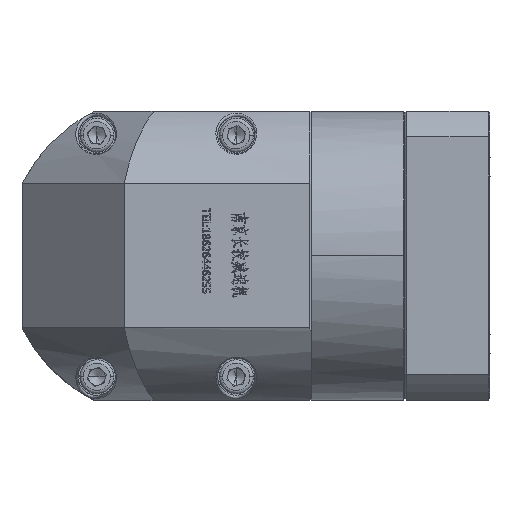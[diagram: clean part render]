
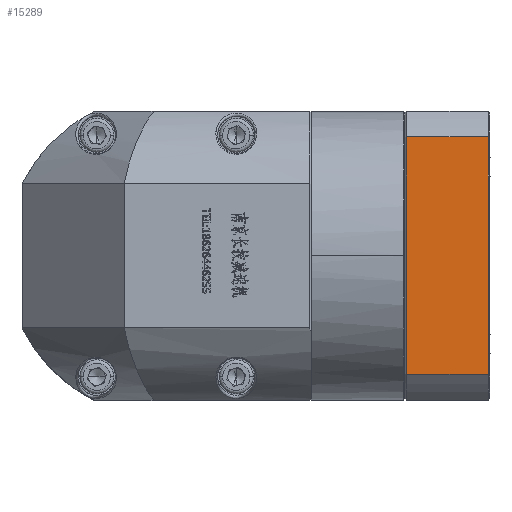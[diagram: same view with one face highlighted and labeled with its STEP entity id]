
A CAD part, top view. The second image highlights one B-rep face of the part: STEP entity #15289.
In plain terms, the highlighted planar face has unit normal (0, 0, 1).
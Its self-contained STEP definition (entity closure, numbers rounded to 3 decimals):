
#5148 = LINE ( 'NONE', #181588, #116836 ) ;
#10032 = CARTESIAN_POINT ( 'NONE',  ( 126.058, 109.999, 59.646 ) ) ;
#11888 = DIRECTION ( 'NONE',  ( 0., -1., 0. ) ) ;
#15289 = ADVANCED_FACE ( 'NONE', ( #75928 ), #38700, .F. ) ;
#22791 = VERTEX_POINT ( 'NONE', #51730 ) ;
#24693 = DIRECTION ( 'NONE',  ( -1., 0., 0. ) ) ;
#25518 = VECTOR ( 'NONE', #44657, 1000. ) ;
#30048 = CARTESIAN_POINT ( 'NONE',  ( 126.058, 109.999, 59.646 ) ) ;
#31092 = ORIENTED_EDGE ( 'NONE', *, *, #47672, .F. ) ;
#35006 = LINE ( 'NONE', #128396, #151207 ) ;
#38700 = PLANE ( 'NONE',  #75537 ) ;
#44657 = DIRECTION ( 'NONE',  ( -1., 0., 0. ) ) ;
#47672 = EDGE_CURVE ( 'NONE', #107727, #176719, #5148, .T. ) ;
#48309 = CARTESIAN_POINT ( 'NONE',  ( 125.558, 109.999, 59.646 ) ) ;
#49451 = ORIENTED_EDGE ( 'NONE', *, *, #131490, .F. ) ;
#51730 = CARTESIAN_POINT ( 'NONE',  ( 101.558, 109.999, 59.646 ) ) ;
#56720 = CARTESIAN_POINT ( 'NONE',  ( 101.558, 179.82, 59.646 ) ) ;
#61004 = LINE ( 'NONE', #117709, #133926 ) ;
#75537 = AXIS2_PLACEMENT_3D ( 'NONE', #10032, #111873, #24693 ) ;
#75928 = FACE_OUTER_BOUND ( 'NONE', #158247, .T. ) ;
#81068 = ORIENTED_EDGE ( 'NONE', *, *, #142246, .T. ) ;
#94406 = DIRECTION ( 'NONE',  ( 0., -1., 0. ) ) ;
#107727 = VERTEX_POINT ( 'NONE', #139495 ) ;
#107888 = VERTEX_POINT ( 'NONE', #56720 ) ;
#111873 = DIRECTION ( 'NONE',  ( 0., 0., -1. ) ) ;
#116836 = VECTOR ( 'NONE', #94406, 1000. ) ;
#117709 = CARTESIAN_POINT ( 'NONE',  ( 126.058, 179.82, 59.646 ) ) ;
#120928 = EDGE_CURVE ( 'NONE', #176719, #22791, #141725, .T. ) ;
#128396 = CARTESIAN_POINT ( 'NONE',  ( 101.558, 109.999, 59.646 ) ) ;
#131490 = EDGE_CURVE ( 'NONE', #107888, #107727, #61004, .T. ) ;
#132345 = DIRECTION ( 'NONE',  ( 1., 0., 0. ) ) ;
#133926 = VECTOR ( 'NONE', #132345, 1000. ) ;
#139495 = CARTESIAN_POINT ( 'NONE',  ( 125.558, 179.82, 59.646 ) ) ;
#141725 = LINE ( 'NONE', #30048, #25518 ) ;
#142246 = EDGE_CURVE ( 'NONE', #107888, #22791, #35006, .T. ) ;
#151207 = VECTOR ( 'NONE', #11888, 1000. ) ;
#158247 = EDGE_LOOP ( 'NONE', ( #31092, #49451, #81068, #163411 ) ) ;
#163411 = ORIENTED_EDGE ( 'NONE', *, *, #120928, .F. ) ;
#176719 = VERTEX_POINT ( 'NONE', #48309 ) ;
#181588 = CARTESIAN_POINT ( 'NONE',  ( 125.558, 109.999, 59.646 ) ) ;
